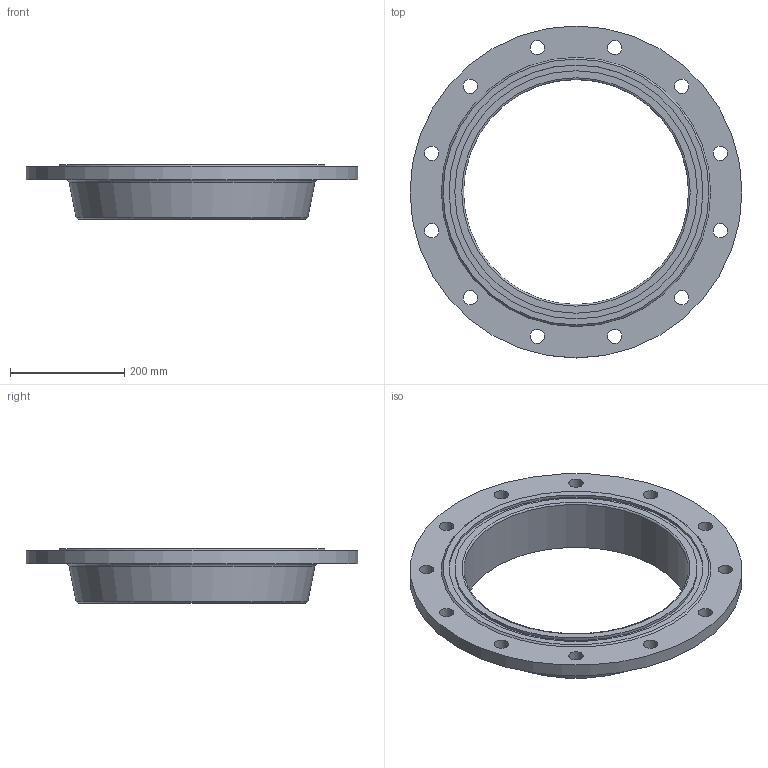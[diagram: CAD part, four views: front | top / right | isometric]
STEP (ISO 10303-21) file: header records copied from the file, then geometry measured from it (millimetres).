
FILE_DESCRIPTION(/* description */ (''),/* implementation_level */ '2;1');
FILE_NAME(/* name */ 'C:\Users\D\Documents\Inventor\HP\JIS\フランジ\水道用フランジF12\GF\ffws_gf_400.stp',/* time_stamp */ '2024-08-28T10:11:14+09:00',/* author */ ('D'),/* organization */ (''),/* preprocessor_version */ 'ST-DEVELOPER v18',/* originating_system */ 'Autodesk Inventor 2020',/* authorisation */ '');
FILE_SCHEMA (('AUTOMOTIVE_DESIGN { 1 0 10303 214 3 1 1 }','FEATURE_BASED_PROCESS_PLANNING'));
Length unit declared in the file: millimetre
Products named in the file (1): ffws_rf_80
Bounding box: 582 x 582 x 95 mm (x, y, z)
Volume: 4342248.9 mm3; surface area: 542864.9 mm2
Topology: 1 solids, 1 shells, 27 faces, 84 edges, 63 vertices
Faces by surface type: cylinder 16, plane 6, cone 3, torus 2
Full cylindrical faces by diameter (mm): 25 x12, 394.4 x1, 425 x1, 445 x1, 582 x1
Entity records: 1104 total; most frequent: DIRECTION 205, CARTESIAN_POINT 175, ORIENTED_EDGE 168, AXIS2_PLACEMENT_3D 93, EDGE_CURVE 84, CIRCLE 65, VERTEX_POINT 63, EDGE_LOOP 57
